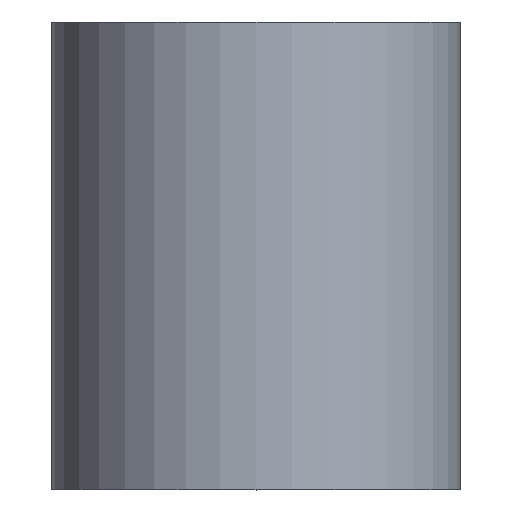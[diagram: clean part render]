
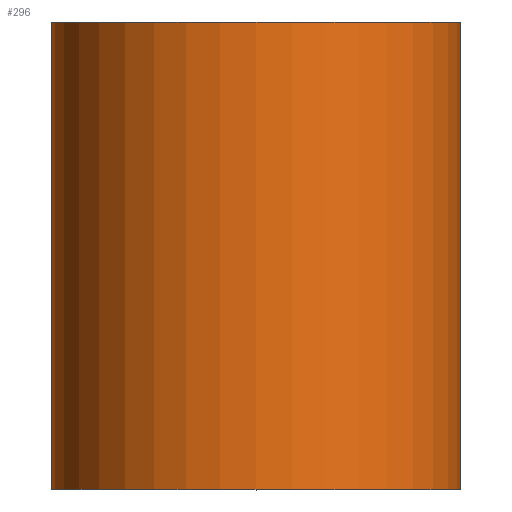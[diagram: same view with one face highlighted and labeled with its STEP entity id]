
A CAD part, top view. The second image highlights one B-rep face of the part: STEP entity #296.
In plain terms, the highlighted cylindrical face has radius 3.5 mm (diameter 7 mm), a partial arc.
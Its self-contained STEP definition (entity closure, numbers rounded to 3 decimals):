
#7 = CARTESIAN_POINT ( 'NONE',  ( 0., 0., 0. ) ) ;
#13 = CIRCLE ( 'NONE', #154, 3.5 ) ;
#23 = VECTOR ( 'NONE', #143, 1000. ) ;
#24 = CARTESIAN_POINT ( 'NONE',  ( 3.5, 0., 0. ) ) ;
#25 = CARTESIAN_POINT ( 'NONE',  ( 3.5, 8., 0. ) ) ;
#27 = DIRECTION ( 'NONE',  ( -1., 0., 0. ) ) ;
#32 = EDGE_CURVE ( 'NONE', #239, #72, #13, .T. ) ;
#35 = DIRECTION ( 'NONE',  ( 0., 1., 0. ) ) ;
#51 = EDGE_CURVE ( 'NONE', #72, #70, #90, .T. ) ;
#65 = CIRCLE ( 'NONE', #97, 3.5 ) ;
#66 = AXIS2_PLACEMENT_3D ( 'NONE', #149, #290, #169 ) ;
#70 = VERTEX_POINT ( 'NONE', #25 ) ;
#72 = VERTEX_POINT ( 'NONE', #166 ) ;
#90 = LINE ( 'NONE', #24, #23 ) ;
#95 = ORIENTED_EDGE ( 'NONE', *, *, #51, .T. ) ;
#97 = AXIS2_PLACEMENT_3D ( 'NONE', #288, #35, #193 ) ;
#137 = VERTEX_POINT ( 'NONE', #245 ) ;
#143 = DIRECTION ( 'NONE',  ( 0., 1., 0. ) ) ;
#149 = CARTESIAN_POINT ( 'NONE',  ( 0., 0., 0. ) ) ;
#152 = ORIENTED_EDGE ( 'NONE', *, *, #298, .F. ) ;
#154 = AXIS2_PLACEMENT_3D ( 'NONE', #7, #240, #27 ) ;
#166 = CARTESIAN_POINT ( 'NONE',  ( 3.5, 0., 0. ) ) ;
#169 = DIRECTION ( 'NONE',  ( -1., 0., 0. ) ) ;
#170 = CARTESIAN_POINT ( 'NONE',  ( -3.5, 0., 0. ) ) ;
#193 = DIRECTION ( 'NONE',  ( -1., 0., 0. ) ) ;
#195 = DIRECTION ( 'NONE',  ( 0., 1., 0. ) ) ;
#202 = VECTOR ( 'NONE', #195, 1000. ) ;
#214 = ORIENTED_EDGE ( 'NONE', *, *, #32, .T. ) ;
#239 = VERTEX_POINT ( 'NONE', #170 ) ;
#240 = DIRECTION ( 'NONE',  ( 0., 1., 0. ) ) ;
#241 = CARTESIAN_POINT ( 'NONE',  ( -3.5, 0., 0. ) ) ;
#245 = CARTESIAN_POINT ( 'NONE',  ( -3.5, 8., 0. ) ) ;
#246 = CYLINDRICAL_SURFACE ( 'NONE', #66, 3.5 ) ;
#247 = ORIENTED_EDGE ( 'NONE', *, *, #292, .F. ) ;
#255 = FACE_OUTER_BOUND ( 'NONE', #257, .T. ) ;
#257 = EDGE_LOOP ( 'NONE', ( #214, #95, #247, #152 ) ) ;
#288 = CARTESIAN_POINT ( 'NONE',  ( 0., 8., 0. ) ) ;
#290 = DIRECTION ( 'NONE',  ( 0., 1., 0. ) ) ;
#292 = EDGE_CURVE ( 'NONE', #137, #70, #65, .T. ) ;
#296 = ADVANCED_FACE ( 'NONE', ( #255 ), #246, .T. ) ;
#297 = LINE ( 'NONE', #241, #202 ) ;
#298 = EDGE_CURVE ( 'NONE', #239, #137, #297, .T. ) ;
